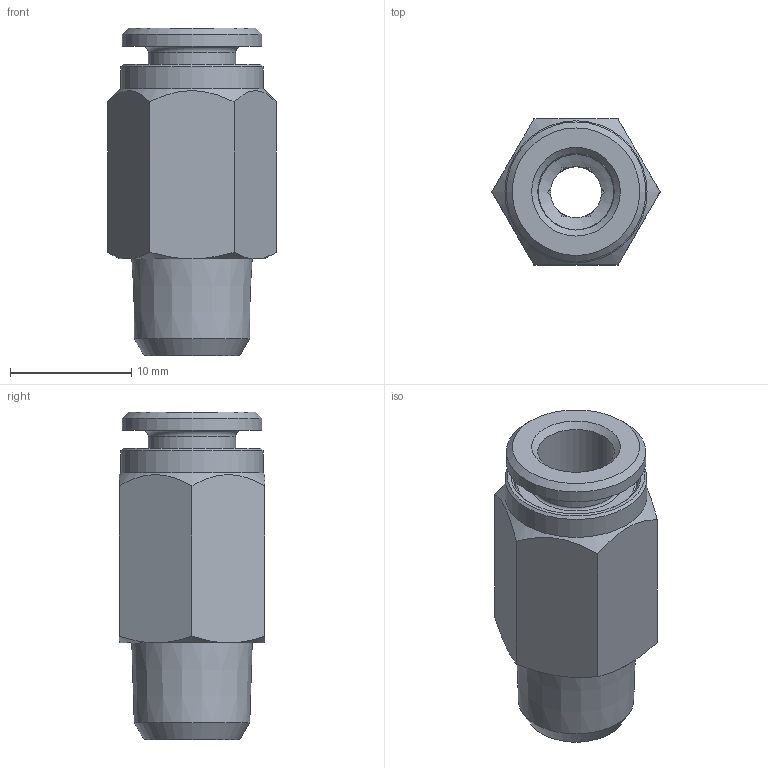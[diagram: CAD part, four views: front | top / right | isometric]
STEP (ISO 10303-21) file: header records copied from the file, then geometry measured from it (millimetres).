
FILE_DESCRIPTION(/* description */ (''),/* implementation_level */ '2;1');
FILE_NAME(/* name */ '9911_0701_0601_HSV-Gerade',/* time_stamp */ '2016-12-08T10:20:02+01:00',/* author */ (''),/* organization */ (''),/* preprocessor_version */ 'ST-DEVELOPER v16.5',/* originating_system */ 'HiCAD 2016 2102.0 Build 402',/* authorisation */ '');
FILE_SCHEMA (('AUTOMOTIVE_DESIGN { 1 0 10303 214 1 1 1 1 }'));
Length unit declared in the file: millimetre
Products named in the file (3): Root; RIVOLUZIONE_0; RIVOLUZIONE_2
Assembly tree (2 placements, depth 2):
  Root
    RIVOLUZIONE_0
    RIVOLUZIONE_2
Bounding box: 13.86 x 12 x 27 mm (x, y, z)
Volume: 1694.3 mm3; surface area: 2430.6 mm2
Topology: 2 solids, 2 shells, 62 faces, 139 edges, 86 vertices
Faces by surface type: plane 32, cone 17, cylinder 9, torus 4
Full cylindrical faces by diameter (mm): 4.2 x1, 6.2 x1, 6.3 x1, 7.2 x1, 9.9 x1, 10 x1, 10.3 x1, 11.5 x1, 11.7 x1
Entity records: 2818 total; most frequent: DIRECTION 324, CARTESIAN_POINT 265, PRESENTATION_STYLE_ASSIGNMENT 230, COLOUR_RGB 230, DRAUGHTING_PRE_DEFINED_CURVE_FONT 228, CURVE_STYLE 228, OVER_RIDING_STYLED_ITEM 228, ORIENTED_EDGE 228
